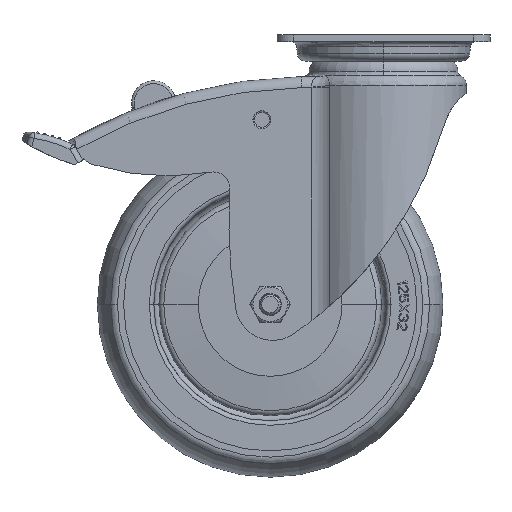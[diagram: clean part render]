
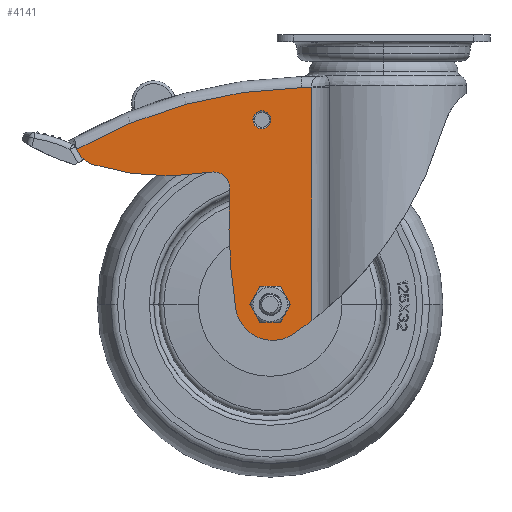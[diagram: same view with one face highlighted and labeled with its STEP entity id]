
A CAD part, left-side view. The second image highlights one B-rep face of the part: STEP entity #4141.
In plain terms, the highlighted planar face has unit normal (-1, 0, 0).
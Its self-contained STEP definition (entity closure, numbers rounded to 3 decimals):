
#2=CARTESIAN_POINT('',(-20.5,44.,-22.25));
#3=DIRECTION('',(1.,0.,0.));
#4=DIRECTION('',(0.,1.,0.));
#5=AXIS2_PLACEMENT_3D('',#2,#3,#4);
#7=CARTESIAN_POINT('',(-20.5,44.,-22.25));
#8=DIRECTION('',(1.,0.,0.));
#9=DIRECTION('',(0.,-1.,0.));
#10=AXIS2_PLACEMENT_3D('',#7,#8,#9);
#12=CARTESIAN_POINT('',(-20.5,41.,-89.));
#13=DIRECTION('',(1.,0.,0.));
#14=DIRECTION('',(0.,1.,0.));
#15=AXIS2_PLACEMENT_3D('',#12,#13,#14);
#17=CARTESIAN_POINT('',(-20.5,41.,-89.));
#18=DIRECTION('',(1.,0.,0.));
#19=DIRECTION('',(0.,-1.,0.));
#20=AXIS2_PLACEMENT_3D('',#17,#18,#19);
#22=CARTESIAN_POINT('',(-20.5,-142.091,-59.508));
#23=DIRECTION('',(1.,0.,0.));
#24=DIRECTION('',(0.,0.988,-0.157));
#25=AXIS2_PLACEMENT_3D('',#22,#23,#24);
#27=CARTESIAN_POINT('',(-20.5,102.42,-29.86));
#28=DIRECTION('',(1.,0.,0.));
#29=DIRECTION('',(0.,0.298,-0.954));
#30=AXIS2_PLACEMENT_3D('',#27,#28,#29);
#32=CARTESIAN_POINT('',(-20.5,26.064,-183.261));
#33=DIRECTION('',(-1.,0.,0.));
#34=DIRECTION('',(0.,0.02,1.));
#35=AXIS2_PLACEMENT_3D('',#32,#33,#34);
#37=DIRECTION('',(0.,1.,0.));
#38=VECTOR('',#37,3.699);
#39=CARTESIAN_POINT('',(-20.5,25.88,-10.6));
#40=LINE('',#39,#38);
#41=DIRECTION('',(0.,0.,-1.));
#42=VECTOR('',#41,84.203);
#43=CARTESIAN_POINT('',(-20.5,25.88,-10.6));
#44=LINE('',#43,#42);
#45=CARTESIAN_POINT('',(-20.5,110.615,14.088));
#46=DIRECTION('',(1.,0.,0.));
#47=DIRECTION('',(0.,-0.614,-0.789));
#48=AXIS2_PLACEMENT_3D('',#45,#46,#47);
#50=CARTESIAN_POINT('',(-20.5,40.117,-88.5));
#51=DIRECTION('',(1.,0.,0.));
#52=DIRECTION('',(0.,-0.566,-0.824));
#53=AXIS2_PLACEMENT_3D('',#50,#51,#52);
#1215=CARTESIAN_POINT('',(-20.5,25.88,-10.6));
#1225=CARTESIAN_POINT('',(-20.5,29.578,-10.6));
#1921=CARTESIAN_POINT('',(-20.5,78.218,47.553));
#1922=DIRECTION('',(-1.,0.,0.));
#1923=DIRECTION('',(0.,0.298,-0.954));
#1924=AXIS2_PLACEMENT_3D('',#1921,#1922,#1923);
#2293=CARTESIAN_POINT('',(-20.5,61.531,-47.095));
#2294=DIRECTION('',(1.,0.,0.));
#2295=DIRECTION('',(0.,0.174,0.985));
#2296=AXIS2_PLACEMENT_3D('',#2293,#2294,#2295);
#3415=VERTEX_POINT('',#1225);
#3423=VERTEX_POINT('',#1215);
#3454=CARTESIAN_POINT('',(-20.5,110.911,-32.844));
#3455=VERTEX_POINT('',#3454);
#3470=CARTESIAN_POINT('',(-20.5,47.25,-22.25));
#3471=CARTESIAN_POINT('',(-20.5,40.75,-22.25));
#3472=VERTEX_POINT('',#3470);
#3473=VERTEX_POINT('',#3471);
#3496=CARTESIAN_POINT('',(-20.5,105.105,-38.45));
#3497=VERTEX_POINT('',#3496);
#3554=CARTESIAN_POINT('',(-20.5,45.1,-89.));
#3555=CARTESIAN_POINT('',(-20.5,36.9,-89.));
#3556=VERTEX_POINT('',#3554);
#3557=VERTEX_POINT('',#3555);
#3572=CARTESIAN_POINT('',(-20.5,32.471,-99.626));
#3573=CARTESIAN_POINT('',(-20.5,53.449,-90.621));
#3574=VERTEX_POINT('',#3572);
#3575=VERTEX_POINT('',#3573);
#3576=CARTESIAN_POINT('',(-20.5,25.88,-94.803));
#3577=VERTEX_POINT('',#3576);
#3602=CARTESIAN_POINT('',(-20.5,62.573,-41.186));
#3604=VERTEX_POINT('',#3602);
#3606=CARTESIAN_POINT('',(-20.5,55.542,-47.46));
#3608=VERTEX_POINT('',#3606);
#4104=CARTESIAN_POINT('',(-20.5,176.,-6.6));
#4105=DIRECTION('',(-1.,0.,0.));
#4106=DIRECTION('',(0.,-1.,0.));
#4107=AXIS2_PLACEMENT_3D('',#4104,#4105,#4106);
#4108=PLANE('',#4107);
#4110=ORIENTED_EDGE('',*,*,#4109,.T.);
#4112=ORIENTED_EDGE('',*,*,#4111,.F.);
#4114=ORIENTED_EDGE('',*,*,#4113,.F.);
#4116=ORIENTED_EDGE('',*,*,#4115,.T.);
#4118=ORIENTED_EDGE('',*,*,#4117,.F.);
#4120=ORIENTED_EDGE('',*,*,#4119,.F.);
#4122=ORIENTED_EDGE('',*,*,#4121,.T.);
#4124=ORIENTED_EDGE('',*,*,#4123,.T.);
#4126=ORIENTED_EDGE('',*,*,#4125,.T.);
#4127=EDGE_LOOP('',(#4110,#4112,#4114,#4116,#4118,#4120,#4122,#4124,#4126));
#4128=FACE_OUTER_BOUND('',#4127,.F.);
#4130=ORIENTED_EDGE('',*,*,#4129,.F.);
#4132=ORIENTED_EDGE('',*,*,#4131,.F.);
#4133=EDGE_LOOP('',(#4130,#4132));
#4134=FACE_BOUND('',#4133,.F.);
#4136=ORIENTED_EDGE('',*,*,#4135,.F.);
#4138=ORIENTED_EDGE('',*,*,#4137,.F.);
#4139=EDGE_LOOP('',(#4136,#4138));
#4140=FACE_BOUND('',#4139,.F.);
#6=CIRCLE('',#5,3.25);
#11=CIRCLE('',#10,3.25);
#16=CIRCLE('',#15,4.1);
#21=CIRCLE('',#20,4.1);
#26=CIRCLE('',#25,198.);
#31=CIRCLE('',#30,9.);
#36=CIRCLE('',#35,172.697);
#49=CIRCLE('',#48,137.976);
#54=CIRCLE('',#53,13.5);
#1925=CIRCLE('',#1924,90.108);
#2297=CIRCLE('',#2296,6.);
#4109=EDGE_CURVE('',#3575,#3608,#26,.T.);
#4111=EDGE_CURVE('',#3604,#3608,#2297,.T.);
#4113=EDGE_CURVE('',#3497,#3604,#1925,.T.);
#4115=EDGE_CURVE('',#3497,#3455,#31,.T.);
#4117=EDGE_CURVE('',#3415,#3455,#36,.T.);
#4119=EDGE_CURVE('',#3423,#3415,#40,.T.);
#4121=EDGE_CURVE('',#3423,#3577,#44,.T.);
#4123=EDGE_CURVE('',#3577,#3574,#49,.T.);
#4125=EDGE_CURVE('',#3574,#3575,#54,.T.);
#4129=EDGE_CURVE('',#3556,#3557,#16,.T.);
#4131=EDGE_CURVE('',#3557,#3556,#21,.T.);
#4135=EDGE_CURVE('',#3472,#3473,#6,.T.);
#4137=EDGE_CURVE('',#3473,#3472,#11,.T.);
#4141=ADVANCED_FACE('',(#4128,#4134,#4140),#4108,.T.);
